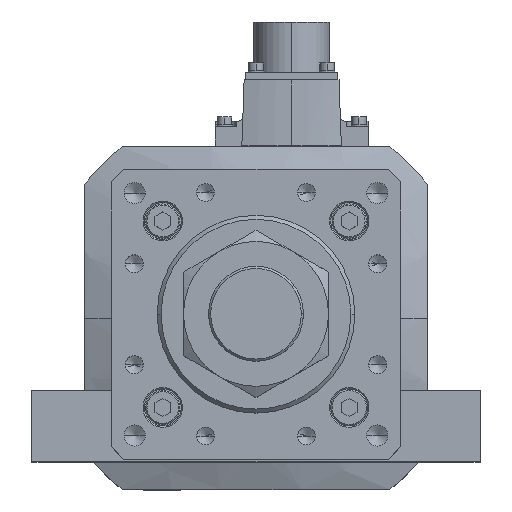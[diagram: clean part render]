
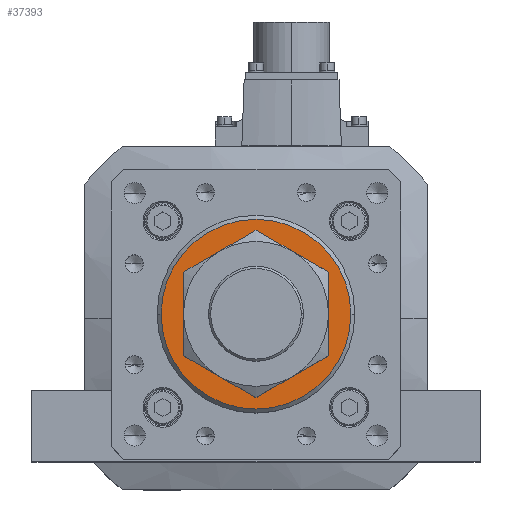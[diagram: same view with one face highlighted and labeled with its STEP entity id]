
A CAD part, top view. The second image highlights one B-rep face of the part: STEP entity #37393.
In plain terms, the highlighted planar face has unit normal (0, 0, 1).
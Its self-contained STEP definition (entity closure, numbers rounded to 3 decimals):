
#75 = DIRECTION ( 'NONE',  ( 0., 0., 1. ) ) ;
#746 = CARTESIAN_POINT ( 'NONE',  ( -36., 0., 596. ) ) ;
#1650 = ORIENTED_EDGE ( 'NONE', *, *, #9624, .T. ) ;
#3502 = AXIS2_PLACEMENT_3D ( 'NONE', #10472, #28606, #4764 ) ;
#3609 = CIRCLE ( 'NONE', #14153, 23. ) ;
#4764 = DIRECTION ( 'NONE',  ( 1., 0., 0. ) ) ;
#5204 = AXIS2_PLACEMENT_3D ( 'NONE', #19530, #31579, #31457 ) ;
#5376 = DIRECTION ( 'NONE',  ( 0., 0., -1. ) ) ;
#6616 = EDGE_CURVE ( 'NONE', #10274, #34461, #36714, .T. ) ;
#7036 = ORIENTED_EDGE ( 'NONE', *, *, #7624, .T. ) ;
#7390 = AXIS2_PLACEMENT_3D ( 'NONE', #27879, #22195, #13101 ) ;
#7624 = EDGE_CURVE ( 'NONE', #31144, #37775, #14342, .T. ) ;
#8465 = ORIENTED_EDGE ( 'NONE', *, *, #35897, .T. ) ;
#9397 = CARTESIAN_POINT ( 'NONE',  ( 36., 0., 596. ) ) ;
#9624 = EDGE_CURVE ( 'NONE', #34461, #10274, #3609, .T. ) ;
#10274 = VERTEX_POINT ( 'NONE', #17924 ) ;
#10472 = CARTESIAN_POINT ( 'NONE',  ( 0., 0., 596. ) ) ;
#11450 = EDGE_LOOP ( 'NONE', ( #7036, #8465 ) ) ;
#11863 = CARTESIAN_POINT ( 'NONE',  ( 0., 0., 596. ) ) ;
#13101 = DIRECTION ( 'NONE',  ( 1., 0., 0. ) ) ;
#14153 = AXIS2_PLACEMENT_3D ( 'NONE', #23030, #5376, #17023 ) ;
#14342 = CIRCLE ( 'NONE', #5204, 36. ) ;
#17023 = DIRECTION ( 'NONE',  ( 1., 0., 0. ) ) ;
#17924 = CARTESIAN_POINT ( 'NONE',  ( -23., 0., 596. ) ) ;
#19417 = PLANE ( 'NONE',  #3502 ) ;
#19465 = FACE_BOUND ( 'NONE', #19632, .T. ) ;
#19530 = CARTESIAN_POINT ( 'NONE',  ( 0., 0., 596. ) ) ;
#19632 = EDGE_LOOP ( 'NONE', ( #1650, #31065 ) ) ;
#20816 = DIRECTION ( 'NONE',  ( 1., 0., 0. ) ) ;
#21923 = CARTESIAN_POINT ( 'NONE',  ( 23., 0., 596. ) ) ;
#22195 = DIRECTION ( 'NONE',  ( 0., 0., -1. ) ) ;
#23030 = CARTESIAN_POINT ( 'NONE',  ( 0., 0., 596. ) ) ;
#26042 = AXIS2_PLACEMENT_3D ( 'NONE', #11863, #75, #20816 ) ;
#26402 = FACE_OUTER_BOUND ( 'NONE', #11450, .T. ) ;
#27879 = CARTESIAN_POINT ( 'NONE',  ( 0., 0., 596. ) ) ;
#28606 = DIRECTION ( 'NONE',  ( 0., 0., 1. ) ) ;
#29323 = CIRCLE ( 'NONE', #26042, 36. ) ;
#31065 = ORIENTED_EDGE ( 'NONE', *, *, #6616, .T. ) ;
#31144 = VERTEX_POINT ( 'NONE', #746 ) ;
#31457 = DIRECTION ( 'NONE',  ( 1., 0., 0. ) ) ;
#31579 = DIRECTION ( 'NONE',  ( 0., 0., 1. ) ) ;
#34461 = VERTEX_POINT ( 'NONE', #21923 ) ;
#35897 = EDGE_CURVE ( 'NONE', #37775, #31144, #29323, .T. ) ;
#36714 = CIRCLE ( 'NONE', #7390, 23. ) ;
#37393 = ADVANCED_FACE ( 'NONE', ( #19465, #26402 ), #19417, .T. ) ;
#37775 = VERTEX_POINT ( 'NONE', #9397 ) ;
